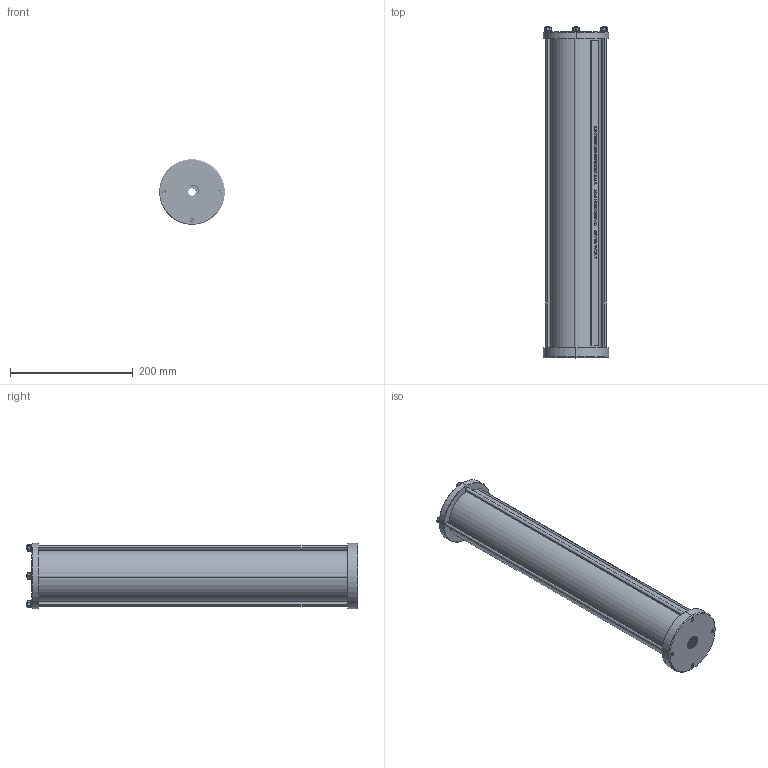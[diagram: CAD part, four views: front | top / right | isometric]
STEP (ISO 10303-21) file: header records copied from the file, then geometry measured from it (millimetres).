
FILE_DESCRIPTION (( 'STEP AP214' ), '1' );
FILE_NAME ('2.0LTR-C-11-34.STEP', '2025-08-19T14:16:04', ( '' ), ( '' ), 'SwSTEP 2.0', 'SolidWorks 2024', '' );
FILE_SCHEMA (( 'AUTOMOTIVE_DESIGN' ));
Length unit declared in the file: millimetre
Products named in the file (1): 2.0LTR-C-11-34
Bounding box: 107 x 541 x 107 mm (x, y, z)
Volume: 761575.1 mm3; surface area: 372159.6 mm2
Topology: 16 solids, 16 shells, 1494 faces, 3896 edges, 2512 vertices
Faces by surface type: cylinder 514, plane 455, bspline 349, cone 88, sphere 72, torus 16
Entity records: 109009 total; most frequent: CARTESIAN_POINT 60559, ORIENTED_EDGE 7792, DIRECTION 5052, EDGE_CURVE 3896, VERTEX_POINT 2512, VECTOR 1806, LINE 1806, AXIS2_PLACEMENT_3D 1623
